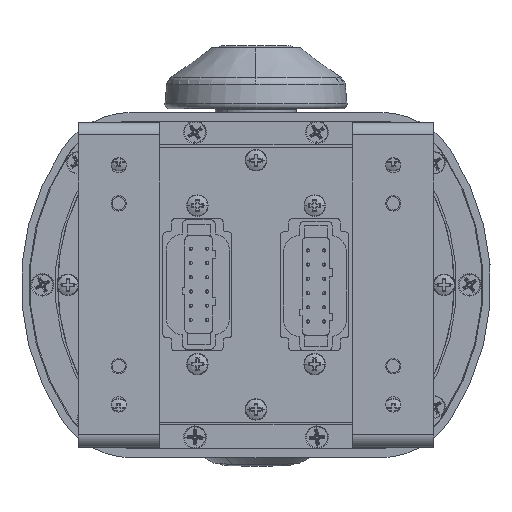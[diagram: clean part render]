
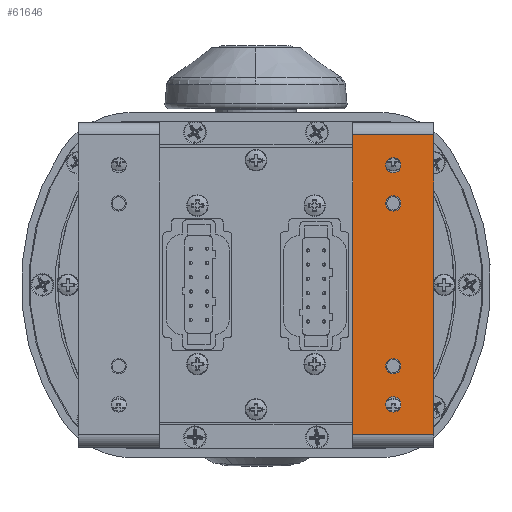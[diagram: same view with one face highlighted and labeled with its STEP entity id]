
A CAD part, front view. The second image highlights one B-rep face of the part: STEP entity #61646.
In plain terms, the highlighted planar face has unit normal (0, -1, 0).
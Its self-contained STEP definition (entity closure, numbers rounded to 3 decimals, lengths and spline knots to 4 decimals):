
#60646=DIRECTION('',(0.,0.,-1.));
#60647=VECTOR('',#60646,3.6875);
#60648=CARTESIAN_POINT('',(3.0173,-4.381,
1.2508));
#60649=LINE('',#60648,#60647);
#60650=CARTESIAN_POINT('',(2.5173,-4.381,
0.8771));
#60651=DIRECTION('',(0.,-1.,0.));
#60652=DIRECTION('',(1.,0.,0.));
#60653=AXIS2_PLACEMENT_3D('',#60650,#60651,#60652);
#60655=CARTESIAN_POINT('',(2.5173,-4.381,
0.8771));
#60656=DIRECTION('',(0.,-1.,0.));
#60657=DIRECTION('',(-1.,0.,0.));
#60658=AXIS2_PLACEMENT_3D('',#60655,#60656,#60657);
#60660=CARTESIAN_POINT('',(2.5173,-4.381,
0.4071));
#60661=DIRECTION('',(0.,-1.,0.));
#60662=DIRECTION('',(1.,0.,0.));
#60663=AXIS2_PLACEMENT_3D('',#60660,#60661,#60662);
#60665=CARTESIAN_POINT('',(2.5173,-4.381,
0.4071));
#60666=DIRECTION('',(0.,-1.,0.));
#60667=DIRECTION('',(-1.,0.,0.));
#60668=AXIS2_PLACEMENT_3D('',#60665,#60666,#60667);
#60670=CARTESIAN_POINT('',(2.5173,-4.381,
-1.5929));
#60671=DIRECTION('',(0.,-1.,0.));
#60672=DIRECTION('',(1.,0.,0.));
#60673=AXIS2_PLACEMENT_3D('',#60670,#60671,#60672);
#60675=CARTESIAN_POINT('',(2.5173,-4.381,
-1.5929));
#60676=DIRECTION('',(0.,-1.,0.));
#60677=DIRECTION('',(-1.,0.,0.));
#60678=AXIS2_PLACEMENT_3D('',#60675,#60676,#60677);
#60680=CARTESIAN_POINT('',(2.5173,-4.381,
-2.0629));
#60681=DIRECTION('',(0.,-1.,0.));
#60682=DIRECTION('',(1.,0.,0.));
#60683=AXIS2_PLACEMENT_3D('',#60680,#60681,#60682);
#60685=CARTESIAN_POINT('',(2.5173,-4.381,
-2.0629));
#60686=DIRECTION('',(0.,-1.,0.));
#60687=DIRECTION('',(-1.,0.,0.));
#60688=AXIS2_PLACEMENT_3D('',#60685,#60686,#60687);
#60694=DIRECTION('',(1.,0.,0.));
#60695=VECTOR('',#60694,1.);
#60696=CARTESIAN_POINT('',(2.0173,-4.381,
-2.4367));
#60697=LINE('',#60696,#60695);
#60860=DIRECTION('',(0.,0.,-1.));
#60861=VECTOR('',#60860,3.6875);
#60862=CARTESIAN_POINT('',(2.0173,-4.381,
1.2508));
#60863=LINE('',#60862,#60861);
#60902=DIRECTION('',(-1.,0.,0.));
#60903=VECTOR('',#60902,1.);
#60904=CARTESIAN_POINT('',(3.0173,-4.381,
1.2508));
#60905=LINE('',#60904,#60903);
#61126=CARTESIAN_POINT('',(2.4235,-4.381,
0.8771));
#61127=VERTEX_POINT('',#61126);
#61128=CARTESIAN_POINT('',(2.611,-4.381,
0.8771));
#61129=VERTEX_POINT('',#61128);
#61150=CARTESIAN_POINT('',(3.0173,-4.381,
1.2508));
#61151=CARTESIAN_POINT('',(3.0173,-4.381,
-2.4367));
#61152=VERTEX_POINT('',#61150);
#61153=VERTEX_POINT('',#61151);
#61170=CARTESIAN_POINT('',(2.0173,-4.381,
-2.4367));
#61171=VERTEX_POINT('',#61170);
#61172=CARTESIAN_POINT('',(2.0173,-4.381,
1.2508));
#61173=VERTEX_POINT('',#61172);
#61174=CARTESIAN_POINT('',(2.611,-4.381,
0.4071));
#61175=CARTESIAN_POINT('',(2.4235,-4.381,
0.4071));
#61176=VERTEX_POINT('',#61174);
#61177=VERTEX_POINT('',#61175);
#61178=CARTESIAN_POINT('',(2.611,-4.381,
-1.5929));
#61179=CARTESIAN_POINT('',(2.4235,-4.381,
-1.5929));
#61180=VERTEX_POINT('',#61178);
#61181=VERTEX_POINT('',#61179);
#61182=CARTESIAN_POINT('',(2.611,-4.381,
-2.0629));
#61183=CARTESIAN_POINT('',(2.4235,-4.381,
-2.0629));
#61184=VERTEX_POINT('',#61182);
#61185=VERTEX_POINT('',#61183);
#61608=CARTESIAN_POINT('',(2.5173,-4.381,
-0.5929));
#61609=DIRECTION('',(0.,1.,0.));
#61610=DIRECTION('',(-1.,0.,0.));
#61611=AXIS2_PLACEMENT_3D('',#61608,#61609,#61610);
#61612=PLANE('',#61611);
#61614=ORIENTED_EDGE('',*,*,#61613,.F.);
#61616=ORIENTED_EDGE('',*,*,#61615,.F.);
#61618=ORIENTED_EDGE('',*,*,#61617,.F.);
#61619=ORIENTED_EDGE('',*,*,#61584,.T.);
#61620=EDGE_LOOP('',(#61614,#61616,#61618,#61619));
#61621=FACE_OUTER_BOUND('',#61620,.F.);
#61623=ORIENTED_EDGE('',*,*,#61622,.T.);
#61625=ORIENTED_EDGE('',*,*,#61624,.T.);
#61626=EDGE_LOOP('',(#61623,#61625));
#61627=FACE_BOUND('',#61626,.F.);
#61629=ORIENTED_EDGE('',*,*,#61628,.T.);
#61631=ORIENTED_EDGE('',*,*,#61630,.T.);
#61632=EDGE_LOOP('',(#61629,#61631));
#61633=FACE_BOUND('',#61632,.F.);
#61635=ORIENTED_EDGE('',*,*,#61634,.T.);
#61637=ORIENTED_EDGE('',*,*,#61636,.T.);
#61638=EDGE_LOOP('',(#61635,#61637));
#61639=FACE_BOUND('',#61638,.F.);
#61641=ORIENTED_EDGE('',*,*,#61640,.T.);
#61643=ORIENTED_EDGE('',*,*,#61642,.T.);
#61644=EDGE_LOOP('',(#61641,#61643));
#61645=FACE_BOUND('',#61644,.F.);
#61646=ADVANCED_FACE('',(#61621,#61627,#61633,#61639,#61645),#61612,.F.);
#60654=CIRCLE('',#60653,0.0938);
#60659=CIRCLE('',#60658,0.0938);
#60664=CIRCLE('',#60663,0.0938);
#60669=CIRCLE('',#60668,0.0938);
#60674=CIRCLE('',#60673,0.0938);
#60679=CIRCLE('',#60678,0.0938);
#60684=CIRCLE('',#60683,0.0938);
#60689=CIRCLE('',#60688,0.0938);
#61584=EDGE_CURVE('',#61152,#61153,#60649,.T.);
#61613=EDGE_CURVE('',#61171,#61153,#60697,.T.);
#61615=EDGE_CURVE('',#61173,#61171,#60863,.T.);
#61617=EDGE_CURVE('',#61152,#61173,#60905,.T.);
#61622=EDGE_CURVE('',#61129,#61127,#60654,.T.);
#61624=EDGE_CURVE('',#61127,#61129,#60659,.T.);
#61628=EDGE_CURVE('',#61176,#61177,#60664,.T.);
#61630=EDGE_CURVE('',#61177,#61176,#60669,.T.);
#61634=EDGE_CURVE('',#61180,#61181,#60674,.T.);
#61636=EDGE_CURVE('',#61181,#61180,#60679,.T.);
#61640=EDGE_CURVE('',#61184,#61185,#60684,.T.);
#61642=EDGE_CURVE('',#61185,#61184,#60689,.T.);
